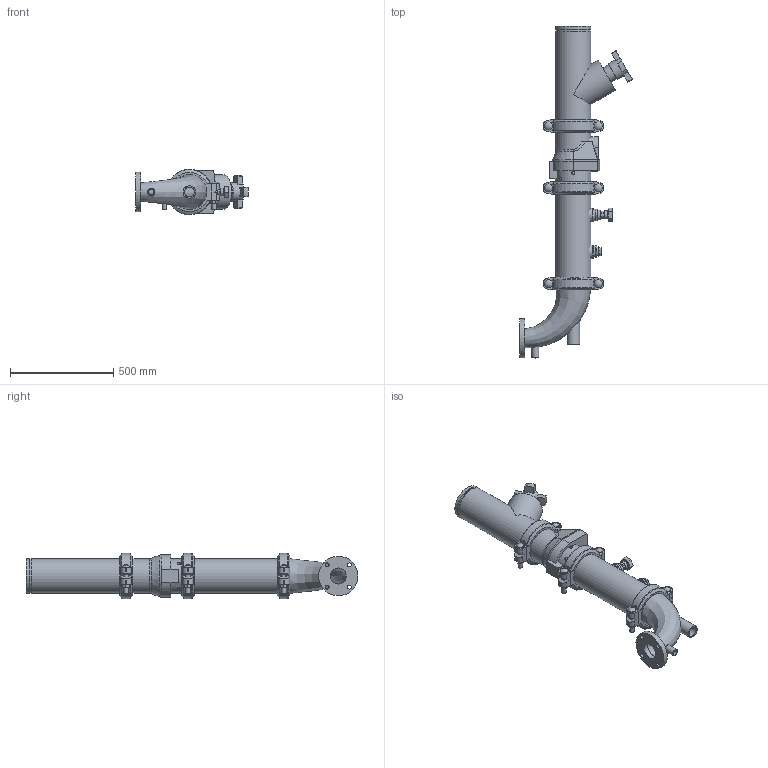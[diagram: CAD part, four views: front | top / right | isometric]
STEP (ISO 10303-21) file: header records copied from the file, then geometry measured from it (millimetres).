
FILE_DESCRIPTION(/* description */ ('VIC DVI PUMP DROP HORZ S/383 (OGSxFLG) (S/924-1.25)','CAx-IF Rec.Pracs.---Representation and Presentation of Product Manufacturing Information (PMI)---4.0---2014-10-13'),/* implementation_level */ '2;1');
FILE_NAME(/* name */ 'C:\Users\Vjadhav\AppData\Roaming\Autodesk\ApplicationPlugins\Victaulic.Temp\A892\Victaulic_IPS_Horizontal DVI_CL 150_Series 383 (OGSxFLG)_924 (1.25)_06.0x03.0 (150x80).stp',/* time_stamp */ '2022-02-28T15:44:13+05:00',/* author */ ('kkamble'),/* organization */ ('Victaulic'),/* preprocessor_version */ 'ST-DEVELOPER v17.2',/* originating_system */ 'Autodesk Inventor 2019',/* authorisation */ '');
FILE_SCHEMA (('AP242_MANAGED_MODEL_BASED_3D_ENGINEERING_MIM_LF { 1 0 10303 442 1 1 4 }'));
Length unit declared in the file: inch
Products named in the file (8): 383-924 (1.25)-06.0x03.0; Pipe-06.0x03.0; 789-06.0; 177N-06.0; 779-06.0; 924-04.0x01.25; 923-04.0x0.75; R100F-06.0x03.0
Assembly tree (9 placements, depth 2):
  383-924 (1.25)-06.0x03.0
    177N-06.0  x3
    Pipe-06.0x03.0
    789-06.0
    779-06.0
    924-04.0x01.25
    923-04.0x0.75
    R100F-06.0x03.0
Bounding box: 546.1 x 1604.96 x 219.2 mm (x, y, z)
Volume: 14971924.1 mm3; surface area: 2415741.5 mm2
Topology: 9 solids, 10 shells, 539 faces, 1413 edges, 949 vertices
Faces by surface type: plane 316, cylinder 176, torus 18, cone 17, sphere 6, bspline 6
Full cylindrical faces by diameter (mm): 13.716 x4, 19.05 x4, 21.209 x6, 21.336 x1, 26.67 x3, 34.29 x1, 37.694 x6, 38.608 x1, 42.164 x1, 45.974 x4, 48.26 x1, 48.514 x1, 55.626 x2, 60.96 x1, 77.927 x1, 79.375 x1, 88.9 x1, 154.051 x4, 155.575 x3, 163.957 x7, 168.275 x18, 190.5 x1
Entity records: 13060 total; most frequent: CARTESIAN_POINT 3489, DIRECTION 1955, ORIENTED_EDGE 1806, EDGE_CURVE 903, AXIS2_PLACEMENT_3D 745, VERTEX_POINT 613, LINE 465, VECTOR 465
